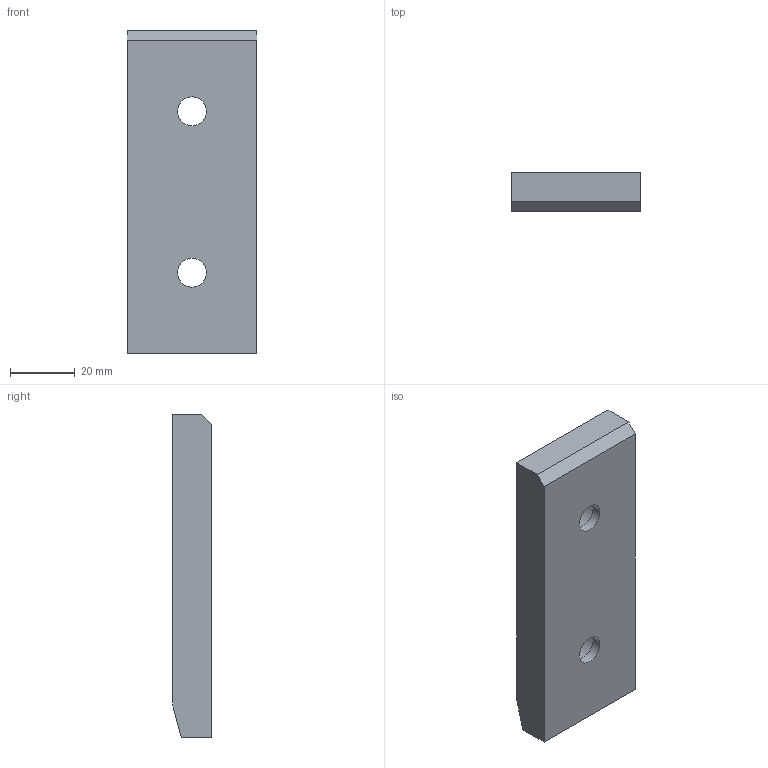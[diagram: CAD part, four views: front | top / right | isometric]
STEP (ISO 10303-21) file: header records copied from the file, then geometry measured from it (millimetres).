
FILE_DESCRIPTION (( 'STEP AP214' ), '1' );
FILE_NAME ('SW222-01-40x100.STEP', '2020-10-14T12:34:39', ( 'August' ), ( '' ), 'SwSTEP 2.0', 'SolidWorks 2018', '' );
FILE_SCHEMA (( 'AUTOMOTIVE_DESIGN' ));
Length unit declared in the file: millimetre
Products named in the file (1): SW222-01-40x100
Bounding box: 40 x 12 x 100 mm (x, y, z)
Volume: 37940.8 mm3; surface area: 15742.3 mm2
Topology: 1 solids, 1 shells, 113 faces, 233 edges, 154 vertices
Faces by surface type: cylinder 69, plane 40, cone 4
Entity records: 3352 total; most frequent: DIRECTION 603, CARTESIAN_POINT 501, ORIENTED_EDGE 466, AXIS2_PLACEMENT_3D 256, EDGE_CURVE 233, VERTEX_POINT 154, EDGE_LOOP 149, CIRCLE 142
